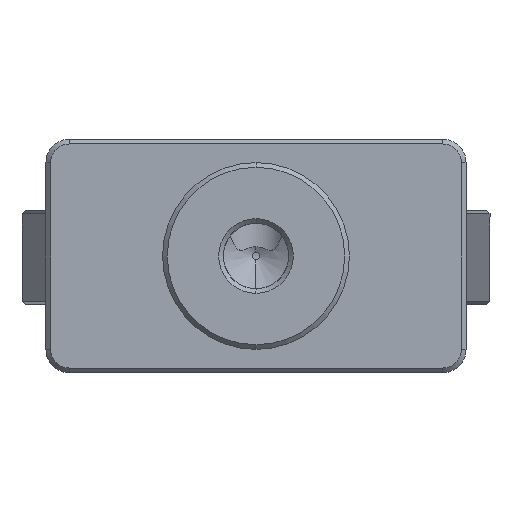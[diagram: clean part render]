
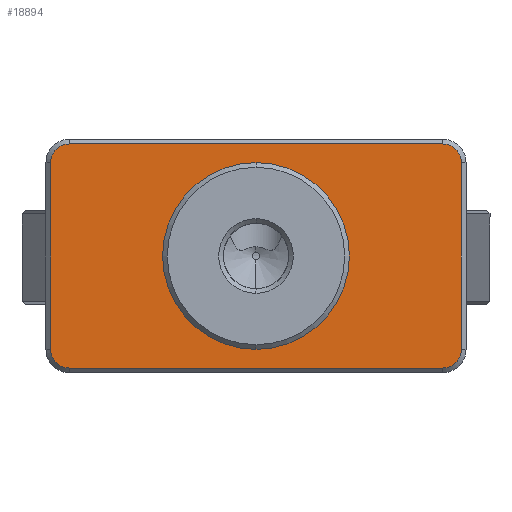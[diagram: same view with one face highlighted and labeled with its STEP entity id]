
A CAD part, front view. The second image highlights one B-rep face of the part: STEP entity #18894.
In plain terms, the highlighted planar face has unit normal (0, -1, 0).
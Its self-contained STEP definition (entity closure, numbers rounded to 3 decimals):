
#114 = CARTESIAN_POINT ( 'NONE',  ( 41.612, -23.942, 82.4 ) ) ;
#193 = ORIENTED_EDGE ( 'NONE', *, *, #19175, .T. ) ;
#286 = CIRCLE ( 'NONE', #22330, 1.2 ) ;
#1754 = AXIS2_PLACEMENT_3D ( 'NONE', #4102, #29883, #7805 ) ;
#2094 = CARTESIAN_POINT ( 'NONE',  ( 40.912, -23.942, 82.4 ) ) ;
#2485 = EDGE_LOOP ( 'NONE', ( #19218, #40706, #34721, #38505, #18974, #18819, #193, #21114 ) ) ;
#3091 = EDGE_CURVE ( 'NONE', #45546, #9279, #40293, .T. ) ;
#4102 = CARTESIAN_POINT ( 'NONE',  ( 28.412, -23.942, 74.9 ) ) ;
#4565 = EDGE_CURVE ( 'NONE', #16765, #36121, #11336, .T. ) ;
#4670 = EDGE_CURVE ( 'NONE', #13217, #6633, #5561, .T. ) ;
#5428 = CIRCLE ( 'NONE', #17133, 6. ) ;
#5561 = LINE ( 'NONE', #28294, #33784 ) ;
#5824 = PLANE ( 'NONE',  #30646 ) ;
#6511 = EDGE_CURVE ( 'NONE', #29596, #26655, #5428, .T. ) ;
#6633 = VERTEX_POINT ( 'NONE', #42354 ) ;
#7282 = CARTESIAN_POINT ( 'NONE',  ( 16.412, -23.942, 67.7 ) ) ;
#7378 = AXIS2_PLACEMENT_3D ( 'NONE', #40088, #18012, #43828 ) ;
#7805 = DIRECTION ( 'NONE',  ( 1., 0., 0. ) ) ;
#9279 = VERTEX_POINT ( 'NONE', #23377 ) ;
#9534 = DIRECTION ( 'NONE',  ( 0., 0., -1. ) ) ;
#11336 = CIRCLE ( 'NONE', #35897, 1.2 ) ;
#12113 = DIRECTION ( 'NONE',  ( 0., 0., -1. ) ) ;
#13217 = VERTEX_POINT ( 'NONE', #7282 ) ;
#13370 = LINE ( 'NONE', #37856, #29492 ) ;
#14018 = LINE ( 'NONE', #23727, #24989 ) ;
#14821 = CARTESIAN_POINT ( 'NONE',  ( 40.412, -23.942, 68.9 ) ) ;
#14953 = DIRECTION ( 'NONE',  ( 0., 0., 1. ) ) ;
#16477 = EDGE_CURVE ( 'NONE', #39514, #16765, #26204, .T. ) ;
#16765 = VERTEX_POINT ( 'NONE', #46311 ) ;
#16768 = DIRECTION ( 'NONE',  ( 0., -1., 0. ) ) ;
#17133 = AXIS2_PLACEMENT_3D ( 'NONE', #19342, #45118, #23076 ) ;
#17915 = CARTESIAN_POINT ( 'NONE',  ( 41.612, -23.942, 68.9 ) ) ;
#18012 = DIRECTION ( 'NONE',  ( 0., -1., 0. ) ) ;
#18253 = AXIS2_PLACEMENT_3D ( 'NONE', #20332, #46085, #24067 ) ;
#18496 = DIRECTION ( 'NONE',  ( 0., 0., -1. ) ) ;
#18819 = ORIENTED_EDGE ( 'NONE', *, *, #4670, .T. ) ;
#18894 = ADVANCED_FACE ( 'NONE', ( #42400, #31449 ), #5824, .T. ) ;
#18974 = ORIENTED_EDGE ( 'NONE', *, *, #46577, .T. ) ;
#19175 = EDGE_CURVE ( 'NONE', #6633, #39514, #286, .T. ) ;
#19218 = ORIENTED_EDGE ( 'NONE', *, *, #4565, .T. ) ;
#19342 = CARTESIAN_POINT ( 'NONE',  ( 28.412, -23.942, 74.9 ) ) ;
#20332 = CARTESIAN_POINT ( 'NONE',  ( 16.412, -23.942, 80.9 ) ) ;
#20358 = DIRECTION ( 'NONE',  ( 0., -1., 0. ) ) ;
#20974 = ORIENTED_EDGE ( 'NONE', *, *, #6511, .F. ) ;
#21114 = ORIENTED_EDGE ( 'NONE', *, *, #16477, .T. ) ;
#21122 = EDGE_CURVE ( 'NONE', #36121, #45546, #14018, .T. ) ;
#21265 = CARTESIAN_POINT ( 'NONE',  ( 40.412, -23.942, 82.1 ) ) ;
#21962 = CARTESIAN_POINT ( 'NONE',  ( 15.212, -23.942, 68.9 ) ) ;
#22330 = AXIS2_PLACEMENT_3D ( 'NONE', #14821, #40568, #18496 ) ;
#23076 = DIRECTION ( 'NONE',  ( 1., 0., 0. ) ) ;
#23377 = CARTESIAN_POINT ( 'NONE',  ( 15.212, -23.942, 80.9 ) ) ;
#23657 = CARTESIAN_POINT ( 'NONE',  ( 28.412, -23.942, 68.9 ) ) ;
#23727 = CARTESIAN_POINT ( 'NONE',  ( 16.412, -23.942, 82.1 ) ) ;
#24067 = DIRECTION ( 'NONE',  ( 0., 0., -1. ) ) ;
#24336 = EDGE_LOOP ( 'NONE', ( #28310, #20974 ) ) ;
#24989 = VECTOR ( 'NONE', #34781, 1000. ) ;
#25066 = VECTOR ( 'NONE', #14953, 1000. ) ;
#26204 = LINE ( 'NONE', #114, #25066 ) ;
#26655 = VERTEX_POINT ( 'NONE', #45099 ) ;
#28294 = CARTESIAN_POINT ( 'NONE',  ( 40.912, -23.942, 67.7 ) ) ;
#28310 = ORIENTED_EDGE ( 'NONE', *, *, #36979, .F. ) ;
#29492 = VECTOR ( 'NONE', #12113, 1000. ) ;
#29596 = VERTEX_POINT ( 'NONE', #23657 ) ;
#29883 = DIRECTION ( 'NONE',  ( 0., -1., 0. ) ) ;
#30646 = AXIS2_PLACEMENT_3D ( 'NONE', #2094, #16768, #9534 ) ;
#31001 = CIRCLE ( 'NONE', #7378, 1.2 ) ;
#31449 = FACE_OUTER_BOUND ( 'NONE', #2485, .T. ) ;
#33784 = VECTOR ( 'NONE', #46750, 1000. ) ;
#34721 = ORIENTED_EDGE ( 'NONE', *, *, #3091, .T. ) ;
#34781 = DIRECTION ( 'NONE',  ( -1., 0., 0. ) ) ;
#35897 = AXIS2_PLACEMENT_3D ( 'NONE', #42425, #20358, #46122 ) ;
#36121 = VERTEX_POINT ( 'NONE', #21265 ) ;
#36979 = EDGE_CURVE ( 'NONE', #26655, #29596, #38418, .T. ) ;
#37264 = CARTESIAN_POINT ( 'NONE',  ( 16.412, -23.942, 82.1 ) ) ;
#37856 = CARTESIAN_POINT ( 'NONE',  ( 15.212, -23.942, 82.4 ) ) ;
#38418 = CIRCLE ( 'NONE', #1754, 6. ) ;
#38505 = ORIENTED_EDGE ( 'NONE', *, *, #39755, .T. ) ;
#39514 = VERTEX_POINT ( 'NONE', #17915 ) ;
#39755 = EDGE_CURVE ( 'NONE', #9279, #46042, #13370, .T. ) ;
#40088 = CARTESIAN_POINT ( 'NONE',  ( 16.412, -23.942, 68.9 ) ) ;
#40293 = CIRCLE ( 'NONE', #18253, 1.2 ) ;
#40568 = DIRECTION ( 'NONE',  ( 0., -1., 0. ) ) ;
#40706 = ORIENTED_EDGE ( 'NONE', *, *, #21122, .T. ) ;
#42354 = CARTESIAN_POINT ( 'NONE',  ( 40.412, -23.942, 67.7 ) ) ;
#42400 = FACE_BOUND ( 'NONE', #24336, .T. ) ;
#42425 = CARTESIAN_POINT ( 'NONE',  ( 40.412, -23.942, 80.9 ) ) ;
#43828 = DIRECTION ( 'NONE',  ( 0., 0., -1. ) ) ;
#45099 = CARTESIAN_POINT ( 'NONE',  ( 28.412, -23.942, 80.9 ) ) ;
#45118 = DIRECTION ( 'NONE',  ( 0., -1., 0. ) ) ;
#45546 = VERTEX_POINT ( 'NONE', #37264 ) ;
#46042 = VERTEX_POINT ( 'NONE', #21962 ) ;
#46085 = DIRECTION ( 'NONE',  ( 0., -1., 0. ) ) ;
#46122 = DIRECTION ( 'NONE',  ( 0., 0., -1. ) ) ;
#46311 = CARTESIAN_POINT ( 'NONE',  ( 41.612, -23.942, 80.9 ) ) ;
#46577 = EDGE_CURVE ( 'NONE', #46042, #13217, #31001, .T. ) ;
#46750 = DIRECTION ( 'NONE',  ( 1., 0., 0. ) ) ;
